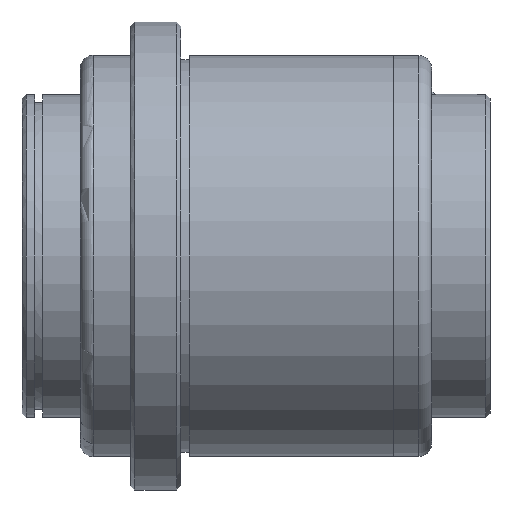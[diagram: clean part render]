
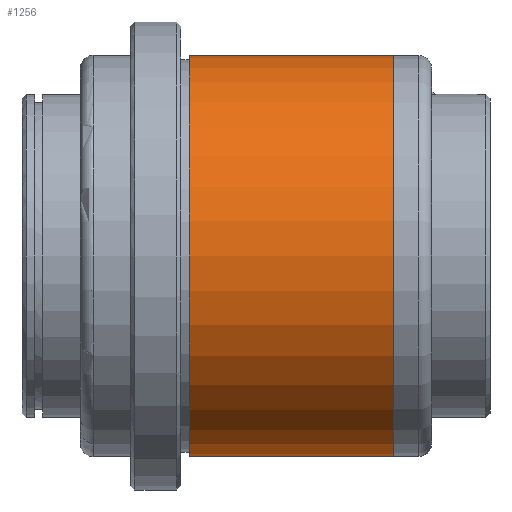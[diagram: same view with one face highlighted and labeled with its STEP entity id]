
A CAD part, front view. The second image highlights one B-rep face of the part: STEP entity #1256.
In plain terms, the highlighted cylindrical face has radius 24 mm (diameter 48 mm), a partial arc.
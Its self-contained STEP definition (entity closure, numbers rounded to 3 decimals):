
#1090=CARTESIAN_POINT('Vertex',(37.5,0.,24.)) ;
#1093=CARTESIAN_POINT('Axis2P3D Location',(37.5,0.,0.)) ;
#1097=CARTESIAN_POINT('Vertex',(37.5,-24.,0.)) ;
#1100=CARTESIAN_POINT('Axis2P3D Location',(37.5,0.,0.)) ;
#1104=CARTESIAN_POINT('Vertex',(37.5,0.,-24.)) ;
#1196=CARTESIAN_POINT('Line Origine',(42.,0.,24.)) ;
#1200=CARTESIAN_POINT('Vertex',(13.,0.,24.)) ;
#1203=CARTESIAN_POINT('Line Origine',(42.,0.,-24.)) ;
#1207=CARTESIAN_POINT('Vertex',(13.,0.,-24.)) ;
#1231=CARTESIAN_POINT('Axis2P3D Location',(42.,0.,0.)) ;
#1236=CARTESIAN_POINT('Axis2P3D Location',(13.,0.,0.)) ;
#1240=CARTESIAN_POINT('Vertex',(13.,-24.,0.)) ;
#1243=CARTESIAN_POINT('Axis2P3D Location',(13.,0.,0.)) ;
#1094=DIRECTION('Axis2P3D Direction',(1.,0.,-0.)) ;
#1101=DIRECTION('Axis2P3D Direction',(1.,0.,-0.)) ;
#1197=DIRECTION('Vector Direction',(-1.,0.,0.)) ;
#1204=DIRECTION('Vector Direction',(-1.,0.,0.)) ;
#1232=DIRECTION('Axis2P3D Direction',(-1.,-0.,-0.)) ;
#1233=DIRECTION('Axis2P3D XDirection',(0.,0.,-1.)) ;
#1237=DIRECTION('Axis2P3D Direction',(-1.,-0.,-0.)) ;
#1244=DIRECTION('Axis2P3D Direction',(-1.,-0.,-0.)) ;
#1095=AXIS2_PLACEMENT_3D('Circle Axis2P3D',#1093,#1094,$) ;
#1102=AXIS2_PLACEMENT_3D('Circle Axis2P3D',#1100,#1101,$) ;
#1234=AXIS2_PLACEMENT_3D('Cylinder Axis2P3D',#1231,#1232,#1233) ;
#1238=AXIS2_PLACEMENT_3D('Circle Axis2P3D',#1236,#1237,$) ;
#1245=AXIS2_PLACEMENT_3D('Circle Axis2P3D',#1243,#1244,$) ;
#1249=ORIENTED_EDGE('',*,*,#1209,.T.) ;
#1250=ORIENTED_EDGE('',*,*,#1106,.F.) ;
#1251=ORIENTED_EDGE('',*,*,#1099,.F.) ;
#1252=ORIENTED_EDGE('',*,*,#1202,.T.) ;
#1253=ORIENTED_EDGE('',*,*,#1242,.T.) ;
#1254=ORIENTED_EDGE('',*,*,#1247,.T.) ;
#1198=VECTOR('Line Direction',#1197,1.) ;
#1205=VECTOR('Line Direction',#1204,1.) ;
#1256=ADVANCED_FACE('732-32',(#1255),#1235,.T.) ;
#1096=CIRCLE('generated circle',#1095,24.) ;
#1103=CIRCLE('generated circle',#1102,24.) ;
#1239=CIRCLE('generated circle',#1238,24.) ;
#1246=CIRCLE('generated circle',#1245,24.) ;
#1235=CYLINDRICAL_SURFACE('generated cylinder',#1234,24.) ;
#1099=EDGE_CURVE('',#1091,#1098,#1096,.T.) ;
#1106=EDGE_CURVE('',#1098,#1105,#1103,.T.) ;
#1202=EDGE_CURVE('',#1091,#1201,#1199,.T.) ;
#1209=EDGE_CURVE('',#1208,#1105,#1206,.F.) ;
#1242=EDGE_CURVE('',#1201,#1241,#1239,.F.) ;
#1247=EDGE_CURVE('',#1241,#1208,#1246,.F.) ;
#1248=EDGE_LOOP('',(#1249,#1250,#1251,#1252,#1253,#1254)) ;
#1255=FACE_OUTER_BOUND('',#1248,.T.) ;
#1199=LINE('Line',#1196,#1198) ;
#1206=LINE('Line',#1203,#1205) ;
#1091=VERTEX_POINT('',#1090) ;
#1098=VERTEX_POINT('',#1097) ;
#1105=VERTEX_POINT('',#1104) ;
#1201=VERTEX_POINT('',#1200) ;
#1208=VERTEX_POINT('',#1207) ;
#1241=VERTEX_POINT('',#1240) ;
